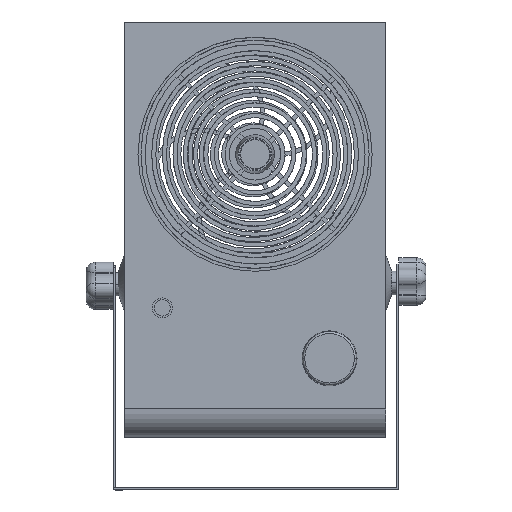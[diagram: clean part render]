
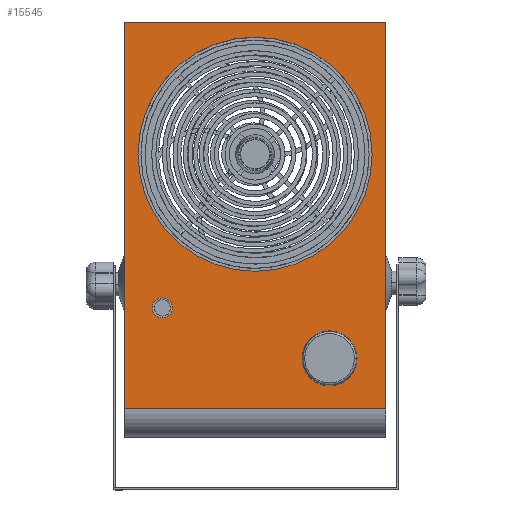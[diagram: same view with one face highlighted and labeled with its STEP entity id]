
A CAD part, top view. The second image highlights one B-rep face of the part: STEP entity #15545.
In plain terms, the highlighted planar face has unit normal (0, 0, 1).
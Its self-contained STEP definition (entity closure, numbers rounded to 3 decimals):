
#17 = CARTESIAN_POINT ( 'NONE',  ( 37.15, -68.95, 86.7 ) ) ;
#27 = DIRECTION ( 'NONE',  ( 1., 0., 0. ) ) ;
#29 = VERTEX_POINT ( 'NONE', #15427 ) ;
#78 = DIRECTION ( 'NONE',  ( 1., 0., 0. ) ) ;
#448 = ORIENTED_EDGE ( 'NONE', *, *, #24285, .F. ) ;
#459 = EDGE_CURVE ( 'NONE', #29, #12042, #3878, .T. ) ;
#823 = ORIENTED_EDGE ( 'NONE', *, *, #1571, .T. ) ;
#949 = DIRECTION ( 'NONE',  ( 0., 0., 1. ) ) ;
#1072 = EDGE_LOOP ( 'NONE', ( #3602, #6679 ) ) ;
#1329 = CIRCLE ( 'NONE', #6641, 5.35 ) ;
#1571 = EDGE_CURVE ( 'NONE', #12042, #11960, #15435, .T. ) ;
#2119 = CARTESIAN_POINT ( 'NONE',  ( 39.85, -68.95, 86.7 ) ) ;
#2171 = DIRECTION ( 'NONE',  ( 1., 0., 0. ) ) ;
#2205 = AXIS2_PLACEMENT_3D ( 'NONE', #25122, #7561, #13695 ) ;
#2295 = CARTESIAN_POINT ( 'NONE',  ( 69.85, -96.05, 86.7 ) ) ;
#2349 = ORIENTED_EDGE ( 'NONE', *, *, #14010, .T. ) ;
#2492 = DIRECTION ( 'NONE',  ( 0., 0., 1. ) ) ;
#2585 = CARTESIAN_POINT ( 'NONE',  ( -44.26, -41.95, 86.7 ) ) ;
#2671 = CARTESIAN_POINT ( 'NONE',  ( -69.85, 111.05, 86.7 ) ) ;
#2814 = CIRCLE ( 'NONE', #18793, 62.65 ) ;
#3602 = ORIENTED_EDGE ( 'NONE', *, *, #5941, .F. ) ;
#3752 = VERTEX_POINT ( 'NONE', #2585 ) ;
#3878 = LINE ( 'NONE', #17193, #7306 ) ;
#3899 = VERTEX_POINT ( 'NONE', #8984 ) ;
#4251 = DIRECTION ( 'NONE',  ( 0., 0., 1. ) ) ;
#4812 = DIRECTION ( 'NONE',  ( 1., 0., 0. ) ) ;
#5900 = EDGE_CURVE ( 'NONE', #9070, #3752, #10737, .T. ) ;
#5941 = EDGE_CURVE ( 'NONE', #3752, #9070, #1329, .T. ) ;
#6078 = LINE ( 'NONE', #13879, #22316 ) ;
#6281 = CARTESIAN_POINT ( 'NONE',  ( 0., 0., 86.7 ) ) ;
#6624 = CARTESIAN_POINT ( 'NONE',  ( -69.85, -96.05, 86.7 ) ) ;
#6641 = AXIS2_PLACEMENT_3D ( 'NONE', #24413, #14646, #10809 ) ;
#6679 = ORIENTED_EDGE ( 'NONE', *, *, #5900, .F. ) ;
#6972 = CARTESIAN_POINT ( 'NONE',  ( -49.61, -41.95, 86.7 ) ) ;
#7306 = VECTOR ( 'NONE', #25017, 1000. ) ;
#7561 = DIRECTION ( 'NONE',  ( 0., 0., 1. ) ) ;
#8196 = FACE_BOUND ( 'NONE', #21656, .T. ) ;
#8646 = CARTESIAN_POINT ( 'NONE',  ( 69.85, -96.05, 86.7 ) ) ;
#8906 = EDGE_LOOP ( 'NONE', ( #823, #12872, #2349, #24921 ) ) ;
#8984 = CARTESIAN_POINT ( 'NONE',  ( -62.65, 40.3, 86.7 ) ) ;
#9070 = VERTEX_POINT ( 'NONE', #20213 ) ;
#9357 = AXIS2_PLACEMENT_3D ( 'NONE', #6281, #4251, #2171 ) ;
#10081 = DIRECTION ( 'NONE',  ( 0., 0., 1. ) ) ;
#10332 = VERTEX_POINT ( 'NONE', #10339 ) ;
#10339 = CARTESIAN_POINT ( 'NONE',  ( 62.65, 40.3, 86.7 ) ) ;
#10737 = CIRCLE ( 'NONE', #14836, 5.35 ) ;
#10809 = DIRECTION ( 'NONE',  ( 1., 0., 0. ) ) ;
#11435 = DIRECTION ( 'NONE',  ( 0., 0., 1. ) ) ;
#11960 = VERTEX_POINT ( 'NONE', #6624 ) ;
#12042 = VERTEX_POINT ( 'NONE', #2671 ) ;
#12281 = LINE ( 'NONE', #2295, #22402 ) ;
#12872 = ORIENTED_EDGE ( 'NONE', *, *, #24951, .T. ) ;
#13063 = VERTEX_POINT ( 'NONE', #17 ) ;
#13647 = VERTEX_POINT ( 'NONE', #8646 ) ;
#13695 = DIRECTION ( 'NONE',  ( 1., 0., 0. ) ) ;
#13751 = AXIS2_PLACEMENT_3D ( 'NONE', #21194, #11435, #27 ) ;
#13879 = CARTESIAN_POINT ( 'NONE',  ( 69.85, 111.05, 86.7 ) ) ;
#14010 = EDGE_CURVE ( 'NONE', #13647, #29, #6078, .T. ) ;
#14141 = ORIENTED_EDGE ( 'NONE', *, *, #15939, .F. ) ;
#14253 = CARTESIAN_POINT ( 'NONE',  ( 42.55, -68.95, 86.7 ) ) ;
#14562 = PLANE ( 'NONE',  #9357 ) ;
#14571 = CIRCLE ( 'NONE', #13751, 62.65 ) ;
#14646 = DIRECTION ( 'NONE',  ( 0., 0., 1. ) ) ;
#14836 = AXIS2_PLACEMENT_3D ( 'NONE', #6972, #949, #24534 ) ;
#15427 = CARTESIAN_POINT ( 'NONE',  ( 69.85, 111.05, 86.7 ) ) ;
#15435 = LINE ( 'NONE', #19537, #16014 ) ;
#15545 = ADVANCED_FACE ( 'NONE', ( #23838, #22399, #8196, #24322 ), #14562, .T. ) ;
#15939 = EDGE_CURVE ( 'NONE', #3899, #10332, #2814, .T. ) ;
#16014 = VECTOR ( 'NONE', #23642, 1000. ) ;
#16167 = AXIS2_PLACEMENT_3D ( 'NONE', #2119, #10081, #78 ) ;
#17193 = CARTESIAN_POINT ( 'NONE',  ( -69.85, 111.05, 86.7 ) ) ;
#18244 = ORIENTED_EDGE ( 'NONE', *, *, #21806, .F. ) ;
#18793 = AXIS2_PLACEMENT_3D ( 'NONE', #24036, #2492, #4812 ) ;
#18990 = CIRCLE ( 'NONE', #2205, 2.7 ) ;
#19537 = CARTESIAN_POINT ( 'NONE',  ( -69.85, 111.05, 86.7 ) ) ;
#20100 = DIRECTION ( 'NONE',  ( 1., 0., 0. ) ) ;
#20213 = CARTESIAN_POINT ( 'NONE',  ( -54.96, -41.95, 86.7 ) ) ;
#21193 = VERTEX_POINT ( 'NONE', #14253 ) ;
#21194 = CARTESIAN_POINT ( 'NONE',  ( 0., 40.3, 86.7 ) ) ;
#21234 = ORIENTED_EDGE ( 'NONE', *, *, #23279, .F. ) ;
#21656 = EDGE_LOOP ( 'NONE', ( #448, #14141 ) ) ;
#21712 = DIRECTION ( 'NONE',  ( 0., 1., 0. ) ) ;
#21806 = EDGE_CURVE ( 'NONE', #21193, #13063, #18990, .T. ) ;
#22316 = VECTOR ( 'NONE', #21712, 1000. ) ;
#22399 = FACE_BOUND ( 'NONE', #1072, .T. ) ;
#22402 = VECTOR ( 'NONE', #20100, 1000. ) ;
#23279 = EDGE_CURVE ( 'NONE', #13063, #21193, #25187, .T. ) ;
#23642 = DIRECTION ( 'NONE',  ( 0., -1., 0. ) ) ;
#23838 = FACE_BOUND ( 'NONE', #24213, .T. ) ;
#24036 = CARTESIAN_POINT ( 'NONE',  ( 0., 40.3, 86.7 ) ) ;
#24213 = EDGE_LOOP ( 'NONE', ( #18244, #21234 ) ) ;
#24285 = EDGE_CURVE ( 'NONE', #10332, #3899, #14571, .T. ) ;
#24322 = FACE_OUTER_BOUND ( 'NONE', #8906, .T. ) ;
#24413 = CARTESIAN_POINT ( 'NONE',  ( -49.61, -41.95, 86.7 ) ) ;
#24534 = DIRECTION ( 'NONE',  ( 1., 0., 0. ) ) ;
#24921 = ORIENTED_EDGE ( 'NONE', *, *, #459, .T. ) ;
#24951 = EDGE_CURVE ( 'NONE', #11960, #13647, #12281, .T. ) ;
#25017 = DIRECTION ( 'NONE',  ( -1., 0., 0. ) ) ;
#25122 = CARTESIAN_POINT ( 'NONE',  ( 39.85, -68.95, 86.7 ) ) ;
#25187 = CIRCLE ( 'NONE', #16167, 2.7 ) ;
